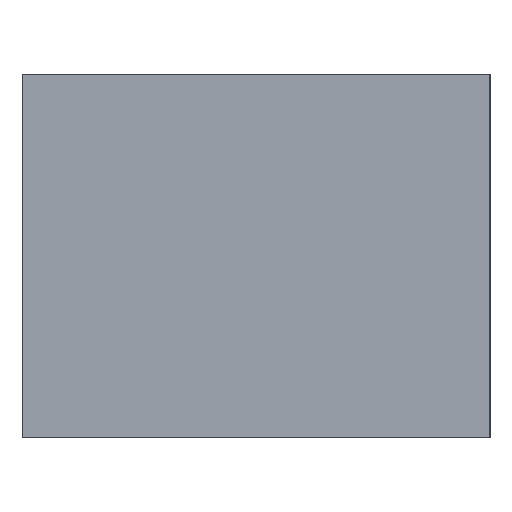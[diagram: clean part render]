
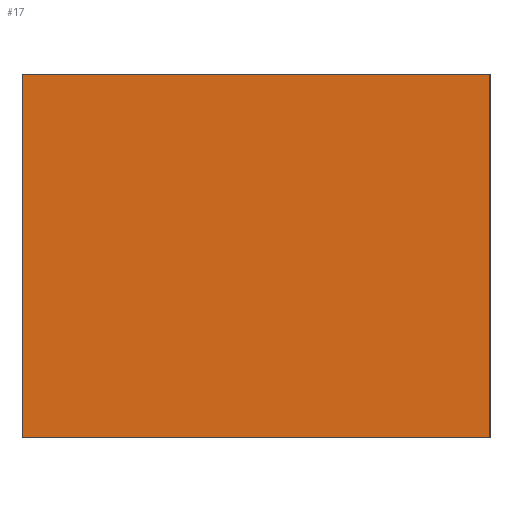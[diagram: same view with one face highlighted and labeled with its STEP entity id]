
A CAD part, left-side view. The second image highlights one B-rep face of the part: STEP entity #17.
In plain terms, the highlighted planar face has unit normal (-1, 0, 0).
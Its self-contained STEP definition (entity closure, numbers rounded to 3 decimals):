
#17 = ADVANCED_FACE('',(#18),#32,.F.);
#18 = FACE_BOUND('',#19,.F.);
#19 = EDGE_LOOP('',(#20,#55,#83,#111));
#20 = ORIENTED_EDGE('',*,*,#21,.F.);
#21 = EDGE_CURVE('',#22,#24,#26,.T.);
#22 = VERTEX_POINT('',#23);
#23 = CARTESIAN_POINT('',(-1.7,-0.9,0.));
#24 = VERTEX_POINT('',#25);
#25 = CARTESIAN_POINT('',(-1.7,-0.9,1.4));
#26 = SURFACE_CURVE('',#27,(#31,#43),.PCURVE_S1.);
#27 = LINE('',#28,#29);
#28 = CARTESIAN_POINT('',(-1.7,-0.9,0.));
#29 = VECTOR('',#30,1.);
#30 = DIRECTION('',(0.,0.,1.));
#31 = PCURVE('',#32,#37);
#32 = PLANE('',#33);
#33 = AXIS2_PLACEMENT_3D('',#34,#35,#36);
#34 = CARTESIAN_POINT('',(-1.7,-0.9,0.));
#35 = DIRECTION('',(1.,0.,0.));
#36 = DIRECTION('',(0.,0.,1.));
#37 = DEFINITIONAL_REPRESENTATION('',(#38),#42);
#38 = LINE('',#39,#40);
#39 = CARTESIAN_POINT('',(0.,0.));
#40 = VECTOR('',#41,1.);
#41 = DIRECTION('',(1.,0.));
#42 = ( GEOMETRIC_REPRESENTATION_CONTEXT(2) 
PARAMETRIC_REPRESENTATION_CONTEXT() REPRESENTATION_CONTEXT('2D SPACE',''
  ) );
#43 = PCURVE('',#44,#49);
#44 = PLANE('',#45);
#45 = AXIS2_PLACEMENT_3D('',#46,#47,#48);
#46 = CARTESIAN_POINT('',(-1.7,-0.9,0.));
#47 = DIRECTION('',(0.,1.,0.));
#48 = DIRECTION('',(0.,0.,1.));
#49 = DEFINITIONAL_REPRESENTATION('',(#50),#54);
#50 = LINE('',#51,#52);
#51 = CARTESIAN_POINT('',(0.,0.));
#52 = VECTOR('',#53,1.);
#53 = DIRECTION('',(1.,0.));
#54 = ( GEOMETRIC_REPRESENTATION_CONTEXT(2) 
PARAMETRIC_REPRESENTATION_CONTEXT() REPRESENTATION_CONTEXT('2D SPACE',''
  ) );
#55 = ORIENTED_EDGE('',*,*,#56,.T.);
#56 = EDGE_CURVE('',#22,#57,#59,.T.);
#57 = VERTEX_POINT('',#58);
#58 = CARTESIAN_POINT('',(-1.7,0.9,0.));
#59 = SURFACE_CURVE('',#60,(#64,#71),.PCURVE_S1.);
#60 = LINE('',#61,#62);
#61 = CARTESIAN_POINT('',(-1.7,-0.9,0.));
#62 = VECTOR('',#63,1.);
#63 = DIRECTION('',(0.,1.,0.));
#64 = PCURVE('',#32,#65);
#65 = DEFINITIONAL_REPRESENTATION('',(#66),#70);
#66 = LINE('',#67,#68);
#67 = CARTESIAN_POINT('',(0.,0.));
#68 = VECTOR('',#69,1.);
#69 = DIRECTION('',(0.,-1.));
#70 = ( GEOMETRIC_REPRESENTATION_CONTEXT(2) 
PARAMETRIC_REPRESENTATION_CONTEXT() REPRESENTATION_CONTEXT('2D SPACE',''
  ) );
#71 = PCURVE('',#72,#77);
#72 = PLANE('',#73);
#73 = AXIS2_PLACEMENT_3D('',#74,#75,#76);
#74 = CARTESIAN_POINT('',(-1.7,-0.9,0.));
#75 = DIRECTION('',(0.,0.,1.));
#76 = DIRECTION('',(1.,0.,0.));
#77 = DEFINITIONAL_REPRESENTATION('',(#78),#82);
#78 = LINE('',#79,#80);
#79 = CARTESIAN_POINT('',(0.,0.));
#80 = VECTOR('',#81,1.);
#81 = DIRECTION('',(0.,1.));
#82 = ( GEOMETRIC_REPRESENTATION_CONTEXT(2) 
PARAMETRIC_REPRESENTATION_CONTEXT() REPRESENTATION_CONTEXT('2D SPACE',''
  ) );
#83 = ORIENTED_EDGE('',*,*,#84,.T.);
#84 = EDGE_CURVE('',#57,#85,#87,.T.);
#85 = VERTEX_POINT('',#86);
#86 = CARTESIAN_POINT('',(-1.7,0.9,1.4));
#87 = SURFACE_CURVE('',#88,(#92,#99),.PCURVE_S1.);
#88 = LINE('',#89,#90);
#89 = CARTESIAN_POINT('',(-1.7,0.9,0.));
#90 = VECTOR('',#91,1.);
#91 = DIRECTION('',(0.,0.,1.));
#92 = PCURVE('',#32,#93);
#93 = DEFINITIONAL_REPRESENTATION('',(#94),#98);
#94 = LINE('',#95,#96);
#95 = CARTESIAN_POINT('',(0.,-1.8));
#96 = VECTOR('',#97,1.);
#97 = DIRECTION('',(1.,0.));
#98 = ( GEOMETRIC_REPRESENTATION_CONTEXT(2) 
PARAMETRIC_REPRESENTATION_CONTEXT() REPRESENTATION_CONTEXT('2D SPACE',''
  ) );
#99 = PCURVE('',#100,#105);
#100 = PLANE('',#101);
#101 = AXIS2_PLACEMENT_3D('',#102,#103,#104);
#102 = CARTESIAN_POINT('',(-1.7,0.9,0.));
#103 = DIRECTION('',(0.,1.,0.));
#104 = DIRECTION('',(0.,0.,1.));
#105 = DEFINITIONAL_REPRESENTATION('',(#106),#110);
#106 = LINE('',#107,#108);
#107 = CARTESIAN_POINT('',(0.,0.));
#108 = VECTOR('',#109,1.);
#109 = DIRECTION('',(1.,0.));
#110 = ( GEOMETRIC_REPRESENTATION_CONTEXT(2) 
PARAMETRIC_REPRESENTATION_CONTEXT() REPRESENTATION_CONTEXT('2D SPACE',''
  ) );
#111 = ORIENTED_EDGE('',*,*,#112,.F.);
#112 = EDGE_CURVE('',#24,#85,#113,.T.);
#113 = SURFACE_CURVE('',#114,(#118,#125),.PCURVE_S1.);
#114 = LINE('',#115,#116);
#115 = CARTESIAN_POINT('',(-1.7,-0.9,1.4));
#116 = VECTOR('',#117,1.);
#117 = DIRECTION('',(0.,1.,0.));
#118 = PCURVE('',#32,#119);
#119 = DEFINITIONAL_REPRESENTATION('',(#120),#124);
#120 = LINE('',#121,#122);
#121 = CARTESIAN_POINT('',(1.4,0.));
#122 = VECTOR('',#123,1.);
#123 = DIRECTION('',(0.,-1.));
#124 = ( GEOMETRIC_REPRESENTATION_CONTEXT(2) 
PARAMETRIC_REPRESENTATION_CONTEXT() REPRESENTATION_CONTEXT('2D SPACE',''
  ) );
#125 = PCURVE('',#126,#131);
#126 = PLANE('',#127);
#127 = AXIS2_PLACEMENT_3D('',#128,#129,#130);
#128 = CARTESIAN_POINT('',(-1.7,-0.9,1.4));
#129 = DIRECTION('',(0.,0.,1.));
#130 = DIRECTION('',(1.,0.,0.));
#131 = DEFINITIONAL_REPRESENTATION('',(#132),#136);
#132 = LINE('',#133,#134);
#133 = CARTESIAN_POINT('',(0.,0.));
#134 = VECTOR('',#135,1.);
#135 = DIRECTION('',(0.,1.));
#136 = ( GEOMETRIC_REPRESENTATION_CONTEXT(2) 
PARAMETRIC_REPRESENTATION_CONTEXT() REPRESENTATION_CONTEXT('2D SPACE',''
  ) );
